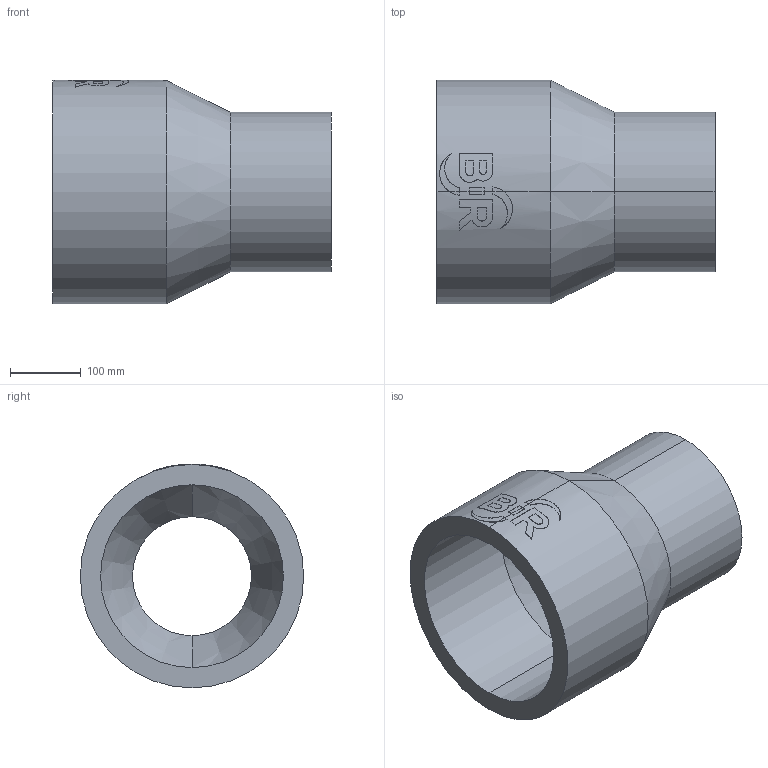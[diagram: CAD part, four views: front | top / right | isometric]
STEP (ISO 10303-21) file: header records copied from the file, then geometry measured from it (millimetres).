
FILE_DESCRIPTION (( 'STEP AP214' ), '1' );
FILE_NAME ('2323232015.STEP', '2018-07-20T10:09:52', ( '' ), ( '' ), 'SwSTEP 2.0', 'SolidWorks 2017', '' );
FILE_SCHEMA (( 'AUTOMOTIVE_DESIGN' ));
Length unit declared in the file: millimetre
Products named in the file (1): 2323232015
Bounding box: 392 x 315 x 315.46 mm (x, y, z)
Volume: 8780076.8 mm3; surface area: 657671.2 mm2
Topology: 1 solids, 1 shells, 63 faces, 160 edges, 104 vertices
Faces by surface type: cylinder 31, plane 28, cone 4
Entity records: 3418 total; most frequent: CARTESIAN_POINT 1209, ORIENTED_EDGE 320, DIRECTION 296, EDGE_CURVE 160, AXIS2_PLACEMENT_3D 112, VERTEX_POINT 104, LINE 72, VECTOR 72
